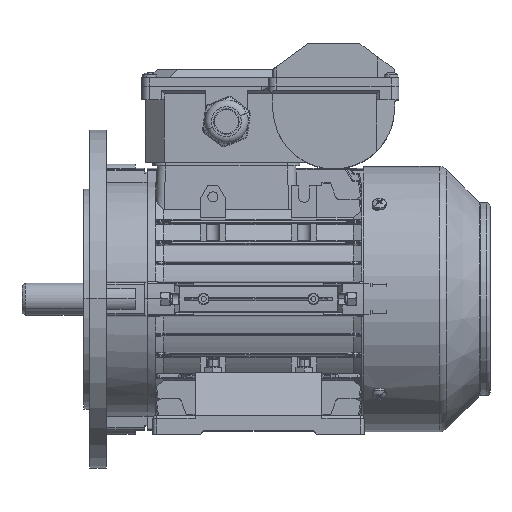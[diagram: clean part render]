
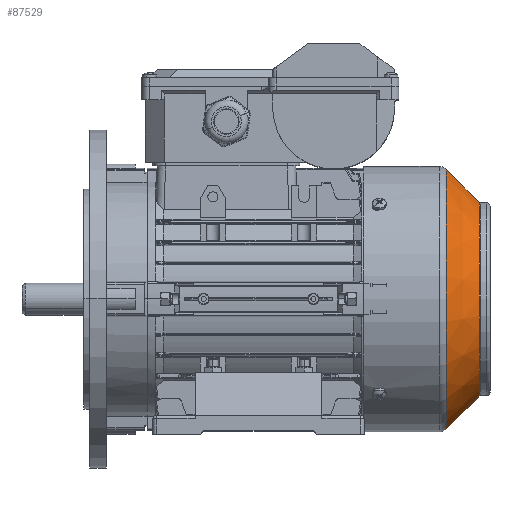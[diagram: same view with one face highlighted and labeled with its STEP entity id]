
A CAD part, top view. The second image highlights one B-rep face of the part: STEP entity #87529.
In plain terms, the highlighted conical face has half-angle 45 degrees and reference radius 76.793 mm.
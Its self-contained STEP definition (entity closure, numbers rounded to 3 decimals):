
#916 = AXIS2_PLACEMENT_3D ( 'NONE', #111692, #47979, #57300 ) ;
#9367 = EDGE_CURVE ( 'NONE', #44458, #98660, #106632, .T. ) ;
#9911 = CARTESIAN_POINT ( 'NONE',  ( 25.793, 0., 76.793 ) ) ;
#11330 = EDGE_CURVE ( 'NONE', #98660, #62535, #39466, .T. ) ;
#15574 = VECTOR ( 'NONE', #45290, 1000. ) ;
#16960 = EDGE_LOOP ( 'NONE', ( #60176, #120203, #54042, #63827 ) ) ;
#17614 = DIRECTION ( 'NONE',  ( -1., 0., 0. ) ) ;
#20775 = DIRECTION ( 'NONE',  ( 0.707, 0., -0.707 ) ) ;
#21576 = CARTESIAN_POINT ( 'NONE',  ( 25.793, 0., -76.793 ) ) ;
#25588 = DIRECTION ( 'NONE',  ( 0., 0., 1. ) ) ;
#26414 = EDGE_CURVE ( 'NONE', #44458, #78688, #112504, .T. ) ;
#26494 = DIRECTION ( 'NONE',  ( 0., 0., 1. ) ) ;
#34503 = CARTESIAN_POINT ( 'NONE',  ( 25.793, 0., 0. ) ) ;
#35972 = CARTESIAN_POINT ( 'NONE',  ( 25.793, 0., 76.793 ) ) ;
#39466 = CIRCLE ( 'NONE', #64918, 76.793 ) ;
#42530 = CONICAL_SURFACE ( 'NONE', #916, 76.793, 0.785 ) ;
#44458 = VERTEX_POINT ( 'NONE', #78023 ) ;
#45162 = CARTESIAN_POINT ( 'NONE',  ( 6.293, 0., 0. ) ) ;
#45290 = DIRECTION ( 'NONE',  ( 0.707, 0., 0.707 ) ) ;
#47979 = DIRECTION ( 'NONE',  ( 1., 0., 0. ) ) ;
#54042 = ORIENTED_EDGE ( 'NONE', *, *, #9367, .T. ) ;
#57300 = DIRECTION ( 'NONE',  ( 0., 0., -1. ) ) ;
#58716 = VECTOR ( 'NONE', #20775, 1000. ) ;
#60176 = ORIENTED_EDGE ( 'NONE', *, *, #80031, .F. ) ;
#62535 = VERTEX_POINT ( 'NONE', #9911 ) ;
#63827 = ORIENTED_EDGE ( 'NONE', *, *, #11330, .T. ) ;
#64247 = FACE_OUTER_BOUND ( 'NONE', #16960, .T. ) ;
#64807 = LINE ( 'NONE', #35972, #15574 ) ;
#64918 = AXIS2_PLACEMENT_3D ( 'NONE', #34503, #72204, #25588 ) ;
#70853 = CARTESIAN_POINT ( 'NONE',  ( 25.793, 0., -76.793 ) ) ;
#72204 = DIRECTION ( 'NONE',  ( -1., 0., 0. ) ) ;
#78023 = CARTESIAN_POINT ( 'NONE',  ( 6.293, 0., -57.293 ) ) ;
#78688 = VERTEX_POINT ( 'NONE', #115138 ) ;
#80031 = EDGE_CURVE ( 'NONE', #78688, #62535, #64807, .T. ) ;
#87529 = ADVANCED_FACE ( 'NONE', ( #64247 ), #42530, .T. ) ;
#93905 = AXIS2_PLACEMENT_3D ( 'NONE', #45162, #17614, #26494 ) ;
#98660 = VERTEX_POINT ( 'NONE', #70853 ) ;
#106632 = LINE ( 'NONE', #21576, #58716 ) ;
#111692 = CARTESIAN_POINT ( 'NONE',  ( 25.793, 0., 0. ) ) ;
#112504 = CIRCLE ( 'NONE', #93905, 57.293 ) ;
#115138 = CARTESIAN_POINT ( 'NONE',  ( 6.293, 0., 57.293 ) ) ;
#120203 = ORIENTED_EDGE ( 'NONE', *, *, #26414, .F. ) ;
